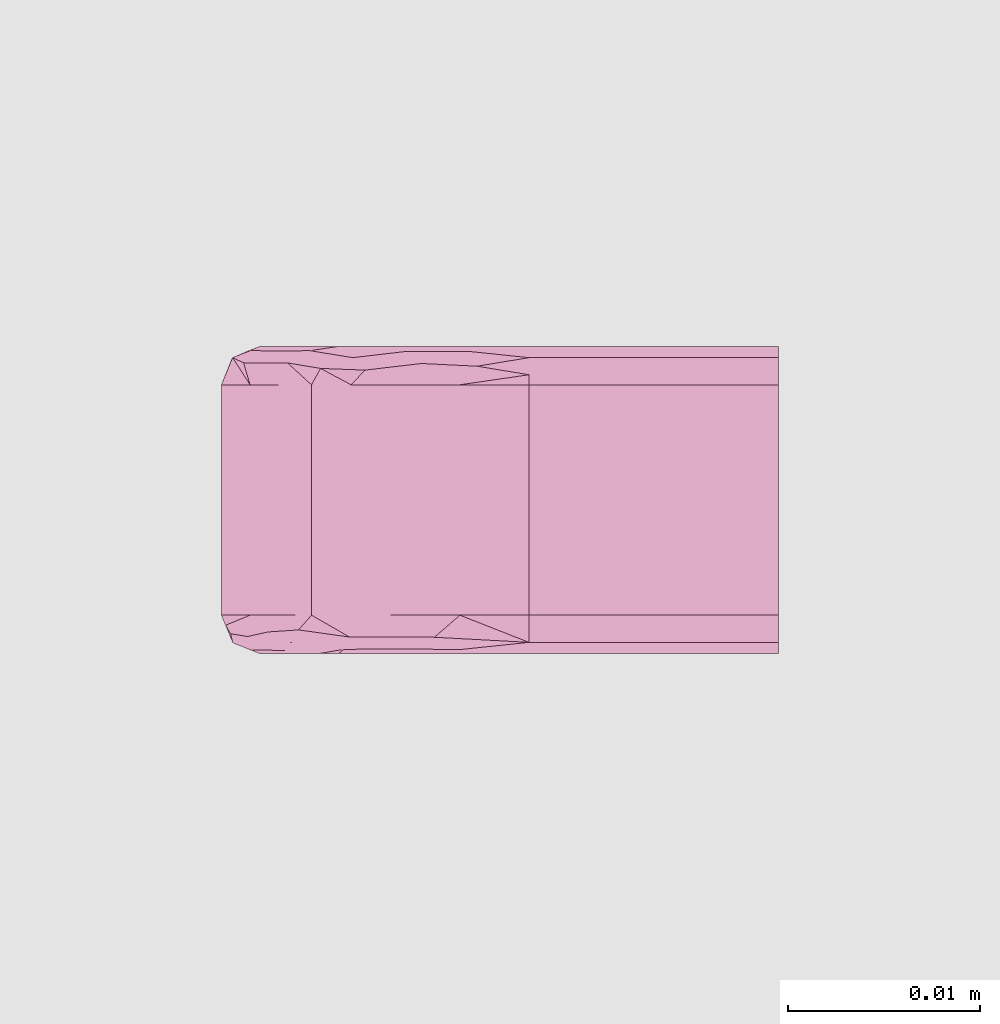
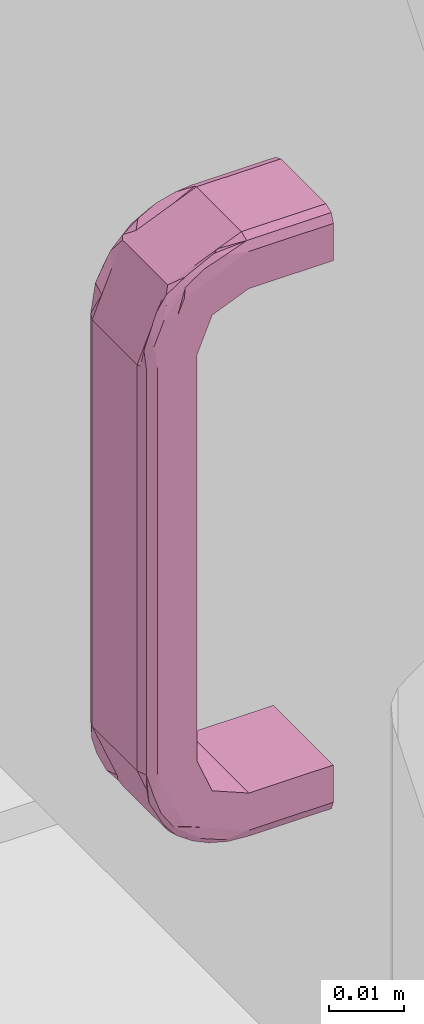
# One storey, part 11 of 15: 1 furnishing.
"""IFC2X3 building model written with IfcOpenShell, lengths in millimetres."""

from ifc_helpers import new_model, entity, si_unit, converted_unit, direction, frame, origin, place, context, subcontext, project, spatial, faceted_brep, source, transform, mapped, material, type_object, type_shapes, element, save


model = new_model("IFC2X3")

# Units and contexts
model_context = context("Model", 3, precision=0.01, world=origin(), true_north=direction((0.0, 1.0)))
body_context = subcontext(model_context, "Body", "Model", "MODEL_VIEW")
ifc_project = project(units=[si_unit("LENGTHUNIT", "METRE", prefix="MILLI"), si_unit("AREAUNIT", "SQUARE_METRE"), si_unit("VOLUMEUNIT", "CUBIC_METRE"), converted_unit("PLANEANGLEUNIT", "DEGREE", entity("IfcPlaneAngleMeasure", 0.017453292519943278), si_unit("PLANEANGLEUNIT", "RADIAN"), dimensions=[0, 0, 0, 0, 0, 0, 0])], contexts=[model_context])

# Site, building, storey, space
site_placement = place(None, origin())
site = spatial("IfcSite", under=ifc_project, at=site_placement, Name="Default", CompositionType="ELEMENT")
building_placement = place(site_placement, origin())
building = spatial("IfcBuilding", under=site, at=building_placement, CompositionType="ELEMENT")
storey_placement = place(building_placement, origin())
storey = spatial("IfcBuildingStorey", under=building, at=storey_placement, Name="Et. 1", CompositionType="ELEMENT", Elevation=0.0)
space_placement = place(storey_placement, frame((11562.567419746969, 11865.190261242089, 0.0)))
space = spatial("IfcSpace", under=storey, at=space_placement, Name="107", CompositionType="ELEMENT", InteriorOrExteriorSpace="INTERNAL")

# Furnishing
ifc_material = material(Name="Focus - Kjøkken - Håndtak")
furniture_type = type_object("IfcFurnitureType", Name="Focus - Håndtak Skap:Håndtak skap", AssemblyPlace="NOTDEFINED", material=ifc_material)
shared_shape = source(origin(), body_context, "Body", "Brep", [
    faceted_brep([(-6.0, 0.0, 4.021099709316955), (6.0, 0.0, 4.021099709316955), (7.414213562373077, 0.0, 3.435313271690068), (8.0, 0.0, 2.021099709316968), (8.0, 0.0, -4.0210997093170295), (-8.0, 0.0, -4.0210997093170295), (-8.0, 0.0, 2.021099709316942), (-7.414213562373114, 0.0, 3.435313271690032), (-8.0, 0.0, -92.021099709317), (-8.0, 0.0, -85.97890029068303), (8.0, 0.0, -85.97890029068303), (8.0, 0.0, -92.02109970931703), (7.414213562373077, 0.0, -93.43531327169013), (6.0, 0.0, -94.02109970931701), (-6.0, 0.0, -94.02109970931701), (-7.414213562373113, 0.0, -93.43531327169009), (6.0, -13.0, 4.021099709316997), (7.414213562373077, -13.0, 3.4353132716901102), (7.707106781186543, -13.0, 2.728206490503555), (8.0, -13.0, 2.0210997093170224), (8.0, -16.60126528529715, 0.5294067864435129), (8.0, -19.75783998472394, -0.7780892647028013), (8.0, -22.914414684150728, -2.0855853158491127), (8.0, -23.941085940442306, -4.564188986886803), (8.0, -24.967757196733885, -7.042792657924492), (8.0, -25.994428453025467, -9.52139632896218), (8.0, -27.021099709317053, -12.0), (8.0, -27.021099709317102, -24.345039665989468), (8.0, -27.02109970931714, -36.69008005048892), (8.0, -27.021099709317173, -47.017560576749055), (8.0, -27.02109970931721, -57.34504038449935), (8.0, -27.021099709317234, -65.65496033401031), (8.0, -27.021099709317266, -78.0), (8.0, -25.52940678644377, -81.60126528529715), (8.0, -24.221910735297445, -84.75783998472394), (8.0, -22.914414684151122, -87.91441468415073), (8.0, -20.435811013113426, -88.9410859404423), (8.0, -17.95720734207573, -89.96775719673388), (8.0, -15.478603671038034, -90.99442845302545), (8.0, -13.0, -92.02109970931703), (8.0, -13.0, -85.97890029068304), (8.0, -18.64193450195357, -83.64193450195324), (8.0, -20.978900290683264, -78.0), (8.0, -20.978900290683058, -12.0), (8.0, -18.641934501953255, -6.358065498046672), (8.0, -13.0, -4.021099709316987), (-8.0, -13.0, -4.021099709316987), (-8.0, -13.0, -92.02109970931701), (-8.0, -16.6012653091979, -90.52940677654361), (-8.0, -19.7578399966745, -89.22191073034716), (-8.0, -22.914414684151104, -87.91441468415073), (-8.0, -23.941085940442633, -85.435811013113), (-8.0, -24.967757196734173, -82.9572073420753), (-8.0, -25.99442845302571, -80.47860367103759), (-8.0, -27.021099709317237, -78.0), (-8.0, -27.0210997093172, -65.65496055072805), (-8.0, -27.021099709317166, -55.327480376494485), (-8.0, -27.02109970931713, -45.00000020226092), (-8.0, -27.021099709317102, -34.67252002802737), (-8.0, -27.021099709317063, -24.34503985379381), (-8.0, -27.02109970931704, -12.0), (-8.0, -25.52940677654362, -8.398734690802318), (-8.0, -24.221910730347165, -5.242160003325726), (-8.0, -22.914414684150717, -2.0855853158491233), (-8.0, -20.435811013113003, -1.0589140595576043), (-8.0, -17.9572073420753, -0.032242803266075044), (-8.0, -15.478603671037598, 0.9944284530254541), (-8.0, -13.0, 2.0210997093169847), (-8.0, -18.641934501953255, -6.358065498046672), (-8.0, -20.97890029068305, -12.0), (-8.0, -20.978900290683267, -78.0), (-8.0, -18.64193450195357, -83.64193450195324), (-8.0, -13.0, -85.97890029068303), (-7.414213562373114, -13.0, 3.4353132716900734), (-6.523051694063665, -13.0, 3.8044446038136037), (-6.0, -13.0, 4.021099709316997), (7.77682804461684, -22.641402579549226, -0.588486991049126), (7.761199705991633, -19.755916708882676, 1.3575143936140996), (7.832026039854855, -25.954055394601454, -4.794062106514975), (6.0, -24.3286282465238, -0.6713717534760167), (6.7653668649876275, -25.002953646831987, -1.6197407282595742), (7.138822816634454, -22.341444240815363, 0.5752165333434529), (6.0, -20.2025305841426, 1.0377138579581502), (7.148530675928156, -17.923500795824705, 2.864246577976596), (7.108929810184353, -27.65191997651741, -6.400304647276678), (6.0, -26.037713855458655, -4.797469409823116), (6.0, -26.674863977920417, -6.335685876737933), (6.0, -27.52940678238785, -8.398734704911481), (6.0, -25.18317105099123, -2.734420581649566), (7.807346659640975, -27.454202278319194, -8.476170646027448), (7.7836039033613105, -16.529274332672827, 2.502698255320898), (6.0, -16.60126529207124, 2.529406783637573), (7.414213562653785, -25.40873190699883, -2.82000717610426), (6.873580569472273, -26.597477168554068, -3.91370423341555), (6.0, -21.496471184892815, 0.5017461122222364), (6.523051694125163, -28.804444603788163, -12.0), (6.968390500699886, -28.53877057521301, -9.3033965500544), (6.0, -27.847981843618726, -9.167842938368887), (6.0, -29.021099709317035, -12.0), (7.414213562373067, -28.43531327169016, -12.0), (6.0, -18.664314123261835, 1.67486397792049), (6.0, -25.501746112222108, -3.5035288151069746), (-6.0, -16.601265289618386, 2.529406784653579), (-6.0, -15.832157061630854, 2.847981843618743), (-7.78360391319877, -27.50269824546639, -8.470725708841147), (-7.761199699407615, -26.357514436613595, -5.244083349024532), (-7.10892981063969, -18.599695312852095, 2.651919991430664), (-6.0, -20.2025305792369, 1.0377138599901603), (-6.0, -18.664314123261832, 1.67486397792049), (-7.730939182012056, -16.04875454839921, 2.7104148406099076), (-7.744591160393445, -19.340507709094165, 1.5930015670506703), (-6.76536686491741, -21.540484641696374, 1.3746327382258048), (-6.0, -22.265579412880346, 0.183171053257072), (-6.0, -21.496471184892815, 0.5017461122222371), (-7.148530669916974, -27.864246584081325, -7.076499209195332), (-7.138822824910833, -25.57521654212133, -2.6585557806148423), (-6.0, -26.037713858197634, -4.7974694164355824), (-7.414213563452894, -22.17999279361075, 0.4087319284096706), (-7.776828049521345, -24.411513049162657, -2.3585974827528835), (-6.853012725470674, -23.855367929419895, -0.47819170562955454), (-7.414213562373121, -28.43531327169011, -12.0), (-6.0, -27.529406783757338, -8.398734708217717), (-6.0, -25.501746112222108, -3.5035288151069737), (-6.0, -24.3286282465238, -0.6713717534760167), (-7.7071067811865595, -27.728206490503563, -12.0), (-6.96839049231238, -15.696603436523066, 3.5387705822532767), (-6.0, -29.021099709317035, -12.0), (-6.0, -26.67486397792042, -6.33568587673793), (7.414213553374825, -28.435313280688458, -29.508780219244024), (6.0, -29.021099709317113, -34.67252039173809), (7.450985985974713, -28.39755881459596, -41.853819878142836), (7.41421354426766, -28.435313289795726, -61.49999992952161), (6.0, -29.02109970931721, -65.65496032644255), (7.4142135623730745, -28.435313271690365, -78.0), (6.0, -29.02109970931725, -78.0), (6.0, -29.02109970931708, -24.345039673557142), (7.707106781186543, -27.728206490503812, -78.0), (6.0, -29.02109970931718, -55.3274796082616), (6.0, -29.021099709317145, -45.0), (-7.414213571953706, -28.435313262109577, -29.50878047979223), (-6.0, -29.02109970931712, -36.69007988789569), (-6.0, -29.021099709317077, -24.345040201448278), (-7.414213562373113, -28.43531327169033, -78.0), (-7.414213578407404, -28.435313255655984, -61.499999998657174), (-6.0, -29.021099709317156, -47.017559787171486), (-7.376459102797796, -28.472085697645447, -41.85382016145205), (-6.0, -29.021099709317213, -65.6549603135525), (-6.523051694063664, -28.80444460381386, -78.0), (-6.0, -29.02109970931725, -78.0), (-6.0, -29.021099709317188, -57.34504020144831), (7.776828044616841, -24.411513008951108, -87.64140257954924), (7.7611997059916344, -26.357514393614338, -84.7559167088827), (7.8320260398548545, -20.20593789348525, -90.95405539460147), (6.0, -24.328628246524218, -89.32862824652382), (6.0, -22.265579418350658, -90.18317105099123), (6.7653668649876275, -23.38025927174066, -90.002953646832), (6.0, -26.037713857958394, -85.2025305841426), (7.138822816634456, -25.575216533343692, -87.34144424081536), (7.148530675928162, -27.864246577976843, -82.92350079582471), (7.108929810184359, -18.599695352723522, -92.65191997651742), (6.0, -20.202530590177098, -91.03771385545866), (6.0, -18.66431412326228, -91.67486397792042), (6.0, -16.601265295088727, -92.52940678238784), (6.873580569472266, -21.086295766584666, -91.5974771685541), (6.0, -21.49647118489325, -90.50174611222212), (7.8073466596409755, -16.5238293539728, -92.45420227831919), (7.78360390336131, -27.50269825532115, -81.52927433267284), (6.0, -27.529406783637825, -81.60126529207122), (7.414213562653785, -22.179992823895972, -90.40873190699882), (6.0, -25.50174611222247, -86.49647118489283), (6.523051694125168, -13.0, -93.80444460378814), (6.968390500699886, -15.696603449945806, -93.53877057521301), (6.0, -15.832157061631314, -92.84798184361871), (6.0, -13.0, -94.02109970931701), (7.414213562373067, -13.0, -93.43531327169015), (6.0, -26.674863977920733, -83.66431412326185), (-6.0, -27.529406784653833, -81.60126528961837), (-6.0, -27.84798184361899, -80.83215706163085), (-7.7836039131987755, -16.529274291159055, -92.50269824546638), (-7.7611996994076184, -19.755916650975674, -91.3575144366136), (-7.108929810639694, -27.651919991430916, -83.59969531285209), (-6.0, -26.03771385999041, -85.20253057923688), (-6.0, -26.67486397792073, -83.66431412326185), (-7.730939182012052, -27.71041484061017, -81.04875454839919), (-7.74459116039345, -26.593001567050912, -84.34050770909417), (-6.76536686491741, -26.374632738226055, -86.54048464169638), (-6.0, -25.18317105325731, -87.26557941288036), (-6.0, -25.50174611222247, -86.49647118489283), (-7.148530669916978, -17.923500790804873, -92.86424658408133), (-7.138822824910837, -22.341444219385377, -90.57521654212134), (-6.0, -20.20253058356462, -91.03771385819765), (-7.414213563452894, -25.40873192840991, -87.17999279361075), (-7.776828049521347, -22.64140251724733, -89.41151304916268), (-6.853012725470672, -24.52180829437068, -88.85536792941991), (-7.41421356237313, -13.0, -93.43531327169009), (-6.0, -16.601265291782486, -92.52940678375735), (-6.0, -21.49647118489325, -90.50174611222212), (-6.0, -24.328628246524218, -89.32862824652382), (-7.707106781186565, -13.0, -92.72820649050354), (-6.96839049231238, -28.538770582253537, -80.69660343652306), (-6.0, -13.0, -94.02109970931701), (-6.0, -18.66431412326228, -91.67486397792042)], [[[0, 1, 2, 3, 4, 5, 6, 7]], [[8, 9, 10, 11, 12, 13, 14, 15]], [[16, 17, 2, 1]], [[2, 17, 18, 19, 3]], [[4, 3, 19, 20, 21, 22, 23, 24, 25, 26, 27, 28, 29, 30, 31, 32, 33, 34, 35, 36, 37, 38, 39, 11, 10, 40, 41, 42, 43, 44, 45]], [[5, 4, 45, 46]], [[9, 8, 47, 48, 49, 50, 51, 52, 53, 54, 55, 56, 57, 58, 59, 60, 61, 62, 63, 64, 65, 66, 67, 6, 5, 46, 68, 69, 70, 71, 72]], [[67, 73, 7, 6]], [[7, 73, 74, 75, 0]], [[1, 0, 75, 16]], [[76, 21, 77]], [[78, 24, 23]], [[79, 80, 81]], [[82, 81, 83]], [[84, 85, 86, 87]], [[80, 79, 88]], [[89, 24, 78]], [[90, 77, 20]], [[17, 91, 83]], [[92, 93, 84]], [[81, 82, 94, 79]], [[87, 95, 96]], [[77, 83, 81]], [[23, 76, 78]], [[93, 92, 80]], [[22, 76, 23]], [[90, 17, 83]], [[19, 18, 17, 90]], [[95, 87, 97, 98]], [[99, 26, 89]], [[76, 77, 81]], [[20, 19, 90]], [[92, 76, 81]], [[21, 76, 22]], [[21, 20, 77]], [[83, 77, 90]], [[91, 17, 16]], [[83, 91, 100, 82]], [[93, 88, 101, 85]], [[81, 80, 92]], [[88, 93, 80]], [[85, 84, 93]], [[76, 92, 78]], [[92, 84, 78]], [[89, 78, 84]], [[84, 96, 89]], [[89, 26, 25, 24]], [[96, 95, 99]], [[89, 96, 99]], [[87, 96, 84]], [[44, 68, 46, 45]], [[43, 69, 68, 44]], [[74, 102, 103, 75]], [[104, 105, 61]], [[106, 107, 108, 102]], [[109, 110, 106]], [[111, 112, 113, 107]], [[105, 114, 115]], [[115, 114, 116]], [[110, 64, 117]], [[118, 62, 105]], [[106, 110, 117]], [[117, 119, 111]], [[120, 121, 114]], [[115, 116, 122, 123]], [[112, 111, 119]], [[119, 117, 118]], [[63, 118, 64]], [[104, 120, 114]], [[60, 124, 120, 104]], [[109, 125, 73]], [[125, 109, 106]], [[118, 105, 115]], [[61, 60, 104]], [[118, 115, 119]], [[62, 118, 63]], [[62, 61, 105]], [[114, 105, 104]], [[121, 120, 126]], [[114, 121, 127, 116]], [[107, 106, 111]], [[106, 117, 111]], [[115, 123, 119]], [[112, 119, 123]], [[64, 118, 117]], [[125, 74, 73]], [[102, 74, 125]], [[102, 125, 106]], [[73, 67, 109]], [[66, 65, 64, 110]], [[110, 109, 66]], [[109, 67, 66]], [[122, 116, 127, 121, 126, 98, 97, 87, 86, 85, 101, 88, 79, 123]], [[79, 94, 82, 100, 91, 16, 75, 103, 102, 108, 107, 113, 112, 123]], [[128, 28, 27, 99]], [[129, 130, 128]], [[29, 130, 131]], [[132, 133, 131]], [[132, 134, 133]], [[135, 99, 95, 98]], [[128, 99, 135, 129]], [[30, 29, 131, 31]], [[31, 133, 136, 32]], [[27, 26, 99]], [[31, 131, 133]], [[130, 137, 131]], [[28, 130, 29]], [[129, 138, 137, 130]], [[28, 128, 130]], [[137, 132, 131]], [[69, 43, 42, 70]], [[139, 140, 141, 120]], [[55, 142, 143]], [[144, 145, 143]], [[146, 142, 147, 148]], [[141, 126, 120]], [[55, 54, 142]], [[59, 120, 124, 60]], [[139, 120, 59, 58]], [[146, 149, 144, 143]], [[58, 145, 139]], [[146, 143, 142]], [[145, 56, 143]], [[140, 145, 144]], [[58, 57, 56, 145]], [[140, 139, 145]], [[56, 55, 143]], [[98, 126, 141, 140, 144, 149, 146, 148, 134, 132, 137, 138, 129, 135]], [[150, 34, 151]], [[152, 37, 36]], [[153, 154, 155]], [[156, 157, 158]], [[159, 160, 161, 162]], [[163, 154, 164, 160]], [[165, 37, 152]], [[166, 151, 33]], [[133, 167, 158]], [[168, 163, 159]], [[157, 156, 169, 153]], [[162, 170, 171]], [[151, 158, 157]], [[36, 150, 152]], [[163, 168, 155]], [[35, 150, 36]], [[166, 133, 158]], [[32, 136, 133, 166]], [[170, 162, 172, 173]], [[174, 39, 165]], [[150, 151, 157]], [[33, 32, 166]], [[168, 150, 157]], [[34, 150, 35]], [[34, 33, 151]], [[158, 151, 166]], [[167, 133, 134]], [[158, 167, 175, 156]], [[168, 157, 155]], [[157, 153, 155]], [[154, 163, 155]], [[160, 159, 163]], [[150, 168, 152]], [[168, 159, 152]], [[165, 152, 159]], [[159, 171, 165]], [[165, 39, 38, 37]], [[171, 170, 174]], [[165, 171, 174]], [[162, 171, 159]], [[41, 71, 70, 42]], [[40, 72, 71, 41]], [[147, 176, 177, 148]], [[178, 179, 48]], [[180, 181, 182, 176]], [[183, 184, 180]], [[185, 186, 187, 181]], [[179, 188, 189]], [[189, 188, 190]], [[184, 51, 191]], [[192, 49, 179]], [[180, 184, 191]], [[191, 193, 185]], [[194, 195, 188]], [[189, 190, 196, 197]], [[186, 185, 193]], [[193, 191, 192]], [[50, 192, 51]], [[178, 194, 188]], [[47, 198, 194, 178]], [[183, 199, 142]], [[199, 183, 180]], [[192, 179, 189]], [[48, 47, 178]], [[192, 189, 193]], [[49, 192, 50]], [[49, 48, 179]], [[188, 179, 178]], [[195, 194, 200]], [[188, 195, 201, 190]], [[181, 180, 185]], [[180, 191, 185]], [[189, 197, 193]], [[186, 193, 197]], [[51, 192, 191]], [[199, 147, 142]], [[176, 147, 199]], [[176, 199, 180]], [[142, 54, 183]], [[53, 52, 51, 184]], [[184, 183, 53]], [[183, 54, 53]], [[196, 190, 201, 195, 200, 173, 172, 162, 161, 160, 164, 154, 153, 197]], [[153, 169, 156, 175, 167, 134, 148, 177, 176, 182, 181, 187, 186, 197]], [[13, 12, 174, 170, 173]], [[174, 12, 11, 39]], [[72, 40, 10, 9]], [[8, 15, 194, 198, 47]], [[194, 15, 14, 200]], [[173, 200, 14, 13]]]),
])
type_shapes(furniture_type, [shared_shape])
furnishing_placement = place(space_placement, frame((5256.0, 628.0, 1440.0), z_axis=(0.0, 0.0, 1.0), x_axis=(0.0, -1.0, 0.0)))
element("IfcFurnishingElement", 1, at=furnishing_placement, inside=space, type_object=furniture_type, material=ifc_material, Name="Focus - Håndtak Skap:Håndtak skap", context=body_context, shape_type="MappedRepresentation", body=[
    mapped(shared_shape, transform((0.0, 0.0, 0.0), scale=1.0)),
])

save(model, "model.ifc")
